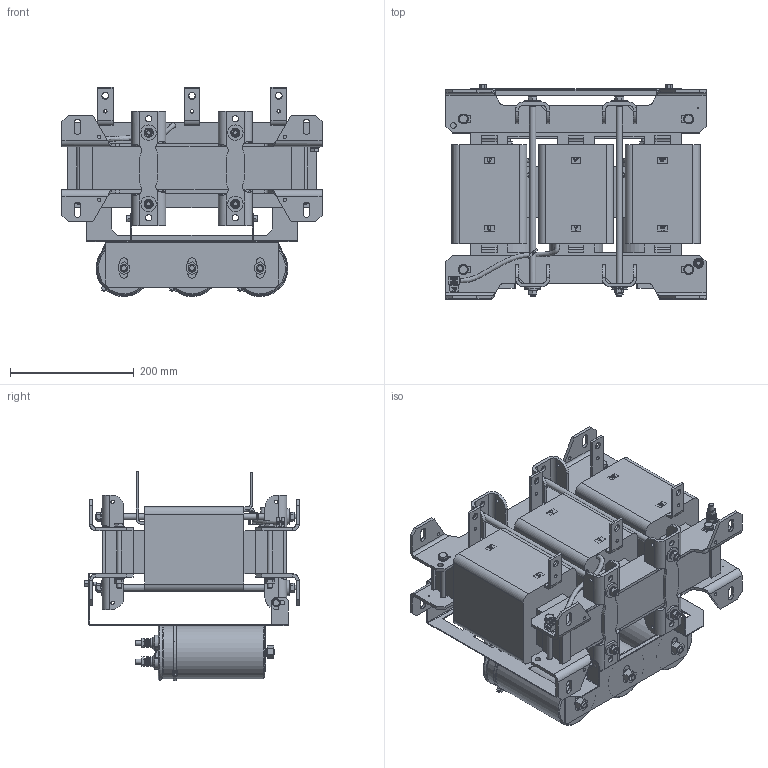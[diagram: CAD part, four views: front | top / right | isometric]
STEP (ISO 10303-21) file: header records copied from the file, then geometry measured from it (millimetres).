
FILE_DESCRIPTION(/* description */ (''),/* implementation_level */ '2;1');
FILE_NAME(/* name */ 'C:\Users\Erika.Jenzer\Desktop\CO20007647\Step Files\FN5420-145-99-E0XXT.stp',/* time_stamp */ '2021-03-02T08:56:41+01:00',/* author */ ('erika.jenzer'),/* organization */ (''),/* preprocessor_version */ 'ST-DEVELOPER v18.1',/* originating_system */ 'Autodesk Inventor 2020',/* authorisation */ '');
FILE_SCHEMA (('AUTOMOTIVE_DESIGN { 1 0 10303 214 3 1 1 }'));
Products named in the file (1): FN5420-145-99-E0XXT
Bounding box: 420 x 345.95 x 337.59 mm (x, y, z)
Volume: 14825725.6 mm3; surface area: 1303825.8 mm2
Topology: 22 solids, 22 shells, 2337 faces, 6474 edges, 4295 vertices
Faces by surface type: plane 1503, cylinder 593, cone 139, bspline 73, torus 16, sphere 13
Full cylindrical faces by diameter (mm): 0.003 x2, 1 x1, 2.013 x4, 2.3 x1, 2.5 x1, 2.8 x5, 3.4 x4, 5.5 x26, 6 x8, 8 x35, 8.2 x1, 8.4 x18, 8.6 x18, 9 x12, 9.5 x4, 10.2 x16, 10.5 x7, 11 x6, 11.4 x5, 11.5 x6, 12 x9, 12.5 x3, 13 x4, 16 x28, 22 x6, 24.7 x6, 25 x8, 86 x3
Entity records: 80765 total; most frequent: CARTESIAN_POINT 18153, ORIENTED_EDGE 12948, DIRECTION 12139, EDGE_CURVE 6474, VERTEX_POINT 4295, AXIS2_PLACEMENT_3D 4133, LINE 3873, VECTOR 3873
